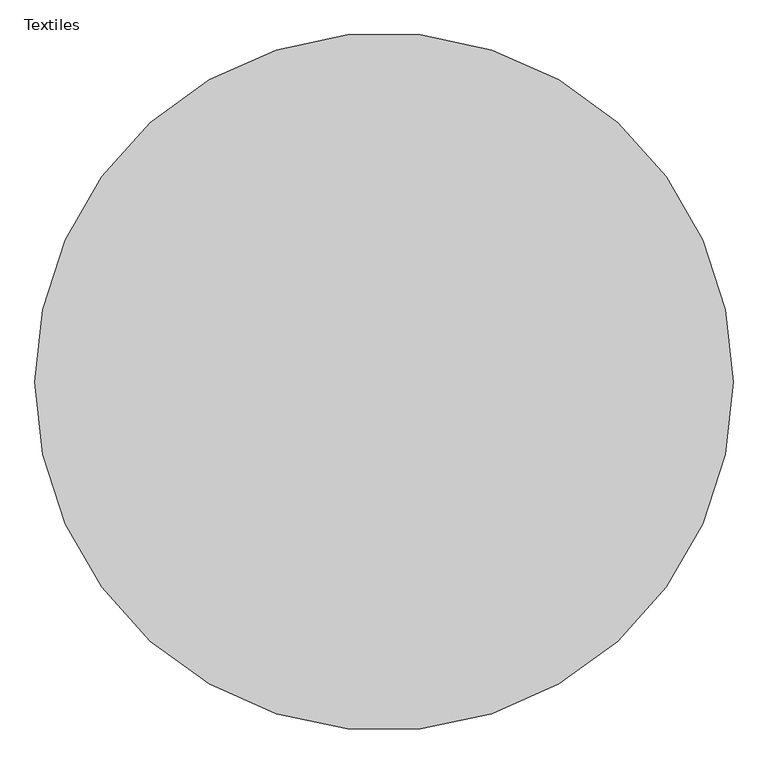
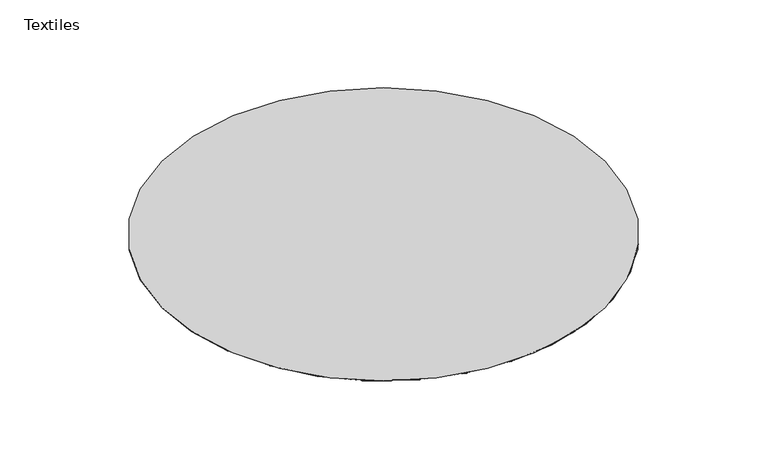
"""IFC4 building model written with IfcOpenShell, lengths in millimetres: furniture geometry, Bolia%20-%20Bossa%20Rug%20Diameter%20200%20cm : Textiles."""

from ifc_helpers import new_model, si_unit, point, frame_2d, origin, origin_with_axes, place, context, project, spatial, circle_curve, trimmed, segment, composite_curve, outline, extrude, source, transform, mapped, element, save


def textiles_6b36da33(model_context):
    return source(origin(), model_context, "Body", "SweptSolid", [
        extrude(outline(composite_curve([segment(trimmed(circle_curve(frame_2d((-361.1339083, 345.7919098)), 1000.125), [point((-1361.2589083, 345.7919098))], [point((638.9910917, 345.7919098))], False, "CARTESIAN"), True, "CONTINUOUS"), segment(trimmed(circle_curve(frame_2d((-361.1339083, 345.7919098)), 1000.125), [point((638.9910917, 345.7919098))], [point((-1361.2589083, 345.7919098))], False, "CARTESIAN"), True, "CONTINUOUS")], self_intersect=False)), origin_with_axes(), (0.0, 0.0, 1.0), 0.8128),
    ])


if __name__ == "__main__":
    model = new_model("IFC4")
    model_context = context("Model", 3, world=origin())
    ifc_project = project(units=[si_unit("LENGTHUNIT", "METRE", prefix="MILLI")], contexts=[model_context])
    site = spatial("IfcSite", under=ifc_project)
    building = spatial("IfcBuilding", under=site)
    placement = place(None, origin())
    textiles_shape = textiles_6b36da33(model_context)
    element("IfcFurniture", 1, ObjectType="Bolia%20-%20Bossa%20Rug%20Diameter%20200%20cm : Textiles", at=placement, inside=building, context=model_context, shape_type="MappedRepresentation", body=[
        mapped(textiles_shape, transform((0.0, 0.0, 0.0), x_axis=(1.0, 0.0, 0.0), y_axis=(0.0, 1.0, 0.0), z_axis=(0.0, 0.0, 1.0))),
    ])
    save(model, "model.ifc")
